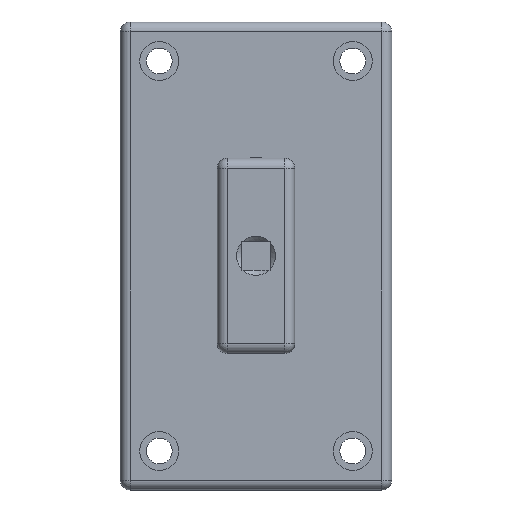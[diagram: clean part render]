
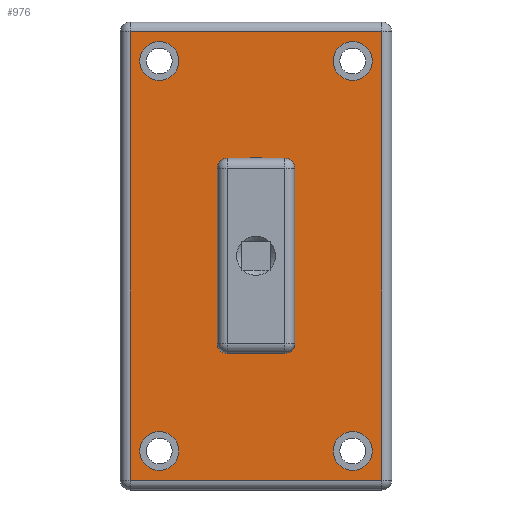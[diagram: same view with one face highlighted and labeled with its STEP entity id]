
A CAD part, top view. The second image highlights one B-rep face of the part: STEP entity #976.
In plain terms, the highlighted planar face has unit normal (0, 0, 1).
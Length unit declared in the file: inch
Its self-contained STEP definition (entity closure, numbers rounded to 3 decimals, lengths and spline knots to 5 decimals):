
#823=CARTESIAN_POINT('',(235.29081,194.72844,-207.41274));
#824=DIRECTION('',(0.0,0.0,-1.0));
#825=DIRECTION('',(0.0,1.0,0.0));
#826=AXIS2_PLACEMENT_3D('',#823,#824,#825);
#827=PLANE('',#826);
#828=CARTESIAN_POINT('',(235.41581,194.60344,-207.41274));
#829=VERTEX_POINT('',#828);
#830=CARTESIAN_POINT('',(235.41581,188.85344,-207.41274));
#831=VERTEX_POINT('',#830);
#832=CARTESIAN_POINT('',(235.41581,194.60344,-207.41274));
#833=DIRECTION('',(0.0,-1.0,0.0));
#834=VECTOR('',#833,5.75);
#835=LINE('',#832,#834);
#836=EDGE_CURVE('',#829,#831,#835,.T.);
#837=ORIENTED_EDGE('',*,*,#836,.T.);
#838=CARTESIAN_POINT('',(238.64581,188.85344,-207.41274));
#839=VERTEX_POINT('',#838);
#840=CARTESIAN_POINT('',(235.41581,188.85344,-207.41274));
#841=DIRECTION('',(1.0,0.0,0.0));
#842=VECTOR('',#841,3.23);
#843=LINE('',#840,#842);
#844=EDGE_CURVE('',#831,#839,#843,.T.);
#845=ORIENTED_EDGE('',*,*,#844,.T.);
#846=CARTESIAN_POINT('',(238.64581,194.60344,-207.41274));
#847=VERTEX_POINT('',#846);
#848=CARTESIAN_POINT('',(238.64581,188.85344,-207.41274));
#849=DIRECTION('',(0.0,1.0,0.0));
#850=VECTOR('',#849,5.75);
#851=LINE('',#848,#850);
#852=EDGE_CURVE('',#839,#847,#851,.T.);
#853=ORIENTED_EDGE('',*,*,#852,.T.);
#854=CARTESIAN_POINT('',(238.64581,194.60344,-207.41274));
#855=DIRECTION('',(-1.0,0.0,0.0));
#856=VECTOR('',#855,3.23);
#857=LINE('',#854,#856);
#858=EDGE_CURVE('',#847,#829,#857,.T.);
#859=ORIENTED_EDGE('',*,*,#858,.T.);
#860=EDGE_LOOP('',(#837,#845,#853,#859));
#861=FACE_OUTER_BOUND('',#860,.T.);
#862=CARTESIAN_POINT('',(235.79081,193.97844,-207.41274));
#863=VERTEX_POINT('',#862);
#864=CARTESIAN_POINT('',(235.79081,194.22844,-207.41274));
#865=DIRECTION('',(0.0,0.0,1.0));
#866=DIRECTION('',(0.0,-1.0,0.0));
#867=AXIS2_PLACEMENT_3D('',#864,#865,#866);
#868=CIRCLE('',#867,0.25);
#869=EDGE_CURVE('',#863,#863,#868,.T.);
#870=ORIENTED_EDGE('',*,*,#869,.F.);
#871=EDGE_LOOP('',(#870));
#872=FACE_BOUND('',#871,.T.);
#873=CARTESIAN_POINT('',(238.27081,193.97844,-207.41274));
#874=VERTEX_POINT('',#873);
#875=CARTESIAN_POINT('',(238.27081,194.22844,-207.41274));
#876=DIRECTION('',(0.0,0.0,1.0));
#877=DIRECTION('',(0.0,-1.0,0.0));
#878=AXIS2_PLACEMENT_3D('',#875,#876,#877);
#879=CIRCLE('',#878,0.25);
#880=EDGE_CURVE('',#874,#874,#879,.T.);
#881=ORIENTED_EDGE('',*,*,#880,.F.);
#882=EDGE_LOOP('',(#881));
#883=FACE_BOUND('',#882,.T.);
#884=CARTESIAN_POINT('',(238.27081,188.97844,-207.41274));
#885=VERTEX_POINT('',#884);
#886=CARTESIAN_POINT('',(238.27081,189.22844,-207.41274));
#887=DIRECTION('',(0.0,0.0,1.0));
#888=DIRECTION('',(0.0,-1.0,0.0));
#889=AXIS2_PLACEMENT_3D('',#886,#887,#888);
#890=CIRCLE('',#889,0.25);
#891=EDGE_CURVE('',#885,#885,#890,.T.);
#892=ORIENTED_EDGE('',*,*,#891,.F.);
#893=EDGE_LOOP('',(#892));
#894=FACE_BOUND('',#893,.T.);
#895=CARTESIAN_POINT('',(235.79081,188.97844,-207.41274));
#896=VERTEX_POINT('',#895);
#897=CARTESIAN_POINT('',(235.79081,189.22844,-207.41274));
#898=DIRECTION('',(0.0,0.0,1.0));
#899=DIRECTION('',(0.0,-1.0,0.0));
#900=AXIS2_PLACEMENT_3D('',#897,#898,#899);
#901=CIRCLE('',#900,0.25);
#902=EDGE_CURVE('',#896,#896,#901,.T.);
#903=ORIENTED_EDGE('',*,*,#902,.F.);
#904=EDGE_LOOP('',(#903));
#905=FACE_BOUND('',#904,.T.);
#906=CARTESIAN_POINT('',(237.52581,192.85344,-207.41274));
#907=VERTEX_POINT('',#906);
#908=CARTESIAN_POINT('',(237.52581,190.60344,-207.41274));
#909=VERTEX_POINT('',#908);
#910=CARTESIAN_POINT('',(237.52581,192.85344,-207.41274));
#911=DIRECTION('',(0.0,-1.0,0.0));
#912=VECTOR('',#911,2.25);
#913=LINE('',#910,#912);
#914=EDGE_CURVE('',#907,#909,#913,.T.);
#915=ORIENTED_EDGE('',*,*,#914,.T.);
#916=CARTESIAN_POINT('',(237.40081,190.47844,-207.41274));
#917=VERTEX_POINT('',#916);
#918=CARTESIAN_POINT('',(237.40081,190.60344,-207.41274));
#919=DIRECTION('',(0.0,0.0,1.0));
#920=DIRECTION('',(0.707,-0.707,0.0));
#921=AXIS2_PLACEMENT_3D('',#918,#919,#920);
#922=CIRCLE('',#921,0.125);
#923=EDGE_CURVE('',#917,#909,#922,.T.);
#924=ORIENTED_EDGE('',*,*,#923,.F.);
#925=CARTESIAN_POINT('',(236.66081,190.47844,-207.41274));
#926=VERTEX_POINT('',#925);
#927=CARTESIAN_POINT('',(236.66081,190.47844,-207.41274));
#928=DIRECTION('',(1.0,0.0,0.0));
#929=VECTOR('',#928,0.74);
#930=LINE('',#927,#929);
#931=EDGE_CURVE('',#926,#917,#930,.T.);
#932=ORIENTED_EDGE('',*,*,#931,.F.);
#933=CARTESIAN_POINT('',(236.53581,190.60344,-207.41274));
#934=VERTEX_POINT('',#933);
#935=CARTESIAN_POINT('',(236.66081,190.60344,-207.41274));
#936=DIRECTION('',(0.0,0.0,1.0));
#937=DIRECTION('',(-0.707,-0.707,0.0));
#938=AXIS2_PLACEMENT_3D('',#935,#936,#937);
#939=CIRCLE('',#938,0.125);
#940=EDGE_CURVE('',#934,#926,#939,.T.);
#941=ORIENTED_EDGE('',*,*,#940,.F.);
#942=CARTESIAN_POINT('',(236.53581,192.85344,-207.41274));
#943=VERTEX_POINT('',#942);
#944=CARTESIAN_POINT('',(236.53581,192.85344,-207.41274));
#945=DIRECTION('',(0.0,-1.0,0.0));
#946=VECTOR('',#945,2.25);
#947=LINE('',#944,#946);
#948=EDGE_CURVE('',#934,#943,#947,.F.);
#949=ORIENTED_EDGE('',*,*,#948,.T.);
#950=CARTESIAN_POINT('',(236.66081,192.97844,-207.41274));
#951=VERTEX_POINT('',#950);
#952=CARTESIAN_POINT('',(236.66081,192.85344,-207.41274));
#953=DIRECTION('',(0.0,0.0,1.0));
#954=DIRECTION('',(-0.707,0.707,0.0));
#955=AXIS2_PLACEMENT_3D('',#952,#953,#954);
#956=CIRCLE('',#955,0.125);
#957=EDGE_CURVE('',#951,#943,#956,.T.);
#958=ORIENTED_EDGE('',*,*,#957,.F.);
#959=CARTESIAN_POINT('',(237.40081,192.97844,-207.41274));
#960=VERTEX_POINT('',#959);
#961=CARTESIAN_POINT('',(237.40081,192.97844,-207.41274));
#962=DIRECTION('',(-1.0,0.0,0.0));
#963=VECTOR('',#962,0.74);
#964=LINE('',#961,#963);
#965=EDGE_CURVE('',#951,#960,#964,.F.);
#966=ORIENTED_EDGE('',*,*,#965,.T.);
#967=CARTESIAN_POINT('',(237.40081,192.85344,-207.41274));
#968=DIRECTION('',(0.0,0.0,1.0));
#969=DIRECTION('',(0.707,0.707,0.0));
#970=AXIS2_PLACEMENT_3D('',#967,#968,#969);
#971=CIRCLE('',#970,0.125);
#972=EDGE_CURVE('',#907,#960,#971,.T.);
#973=ORIENTED_EDGE('',*,*,#972,.F.);
#974=EDGE_LOOP('',(#915,#924,#932,#941,#949,#958,#966,#973));
#975=FACE_BOUND('',#974,.T.);
#976=ADVANCED_FACE('',(#861,#872,#883,#894,#905,#975),#827,.F.);
